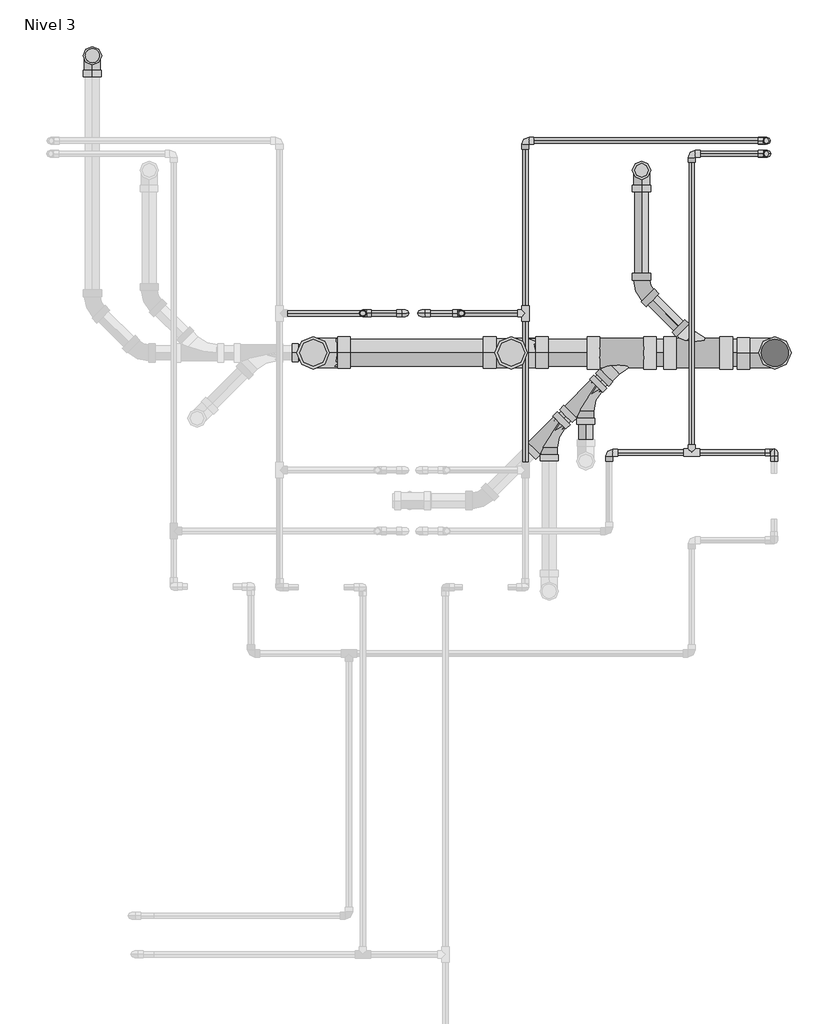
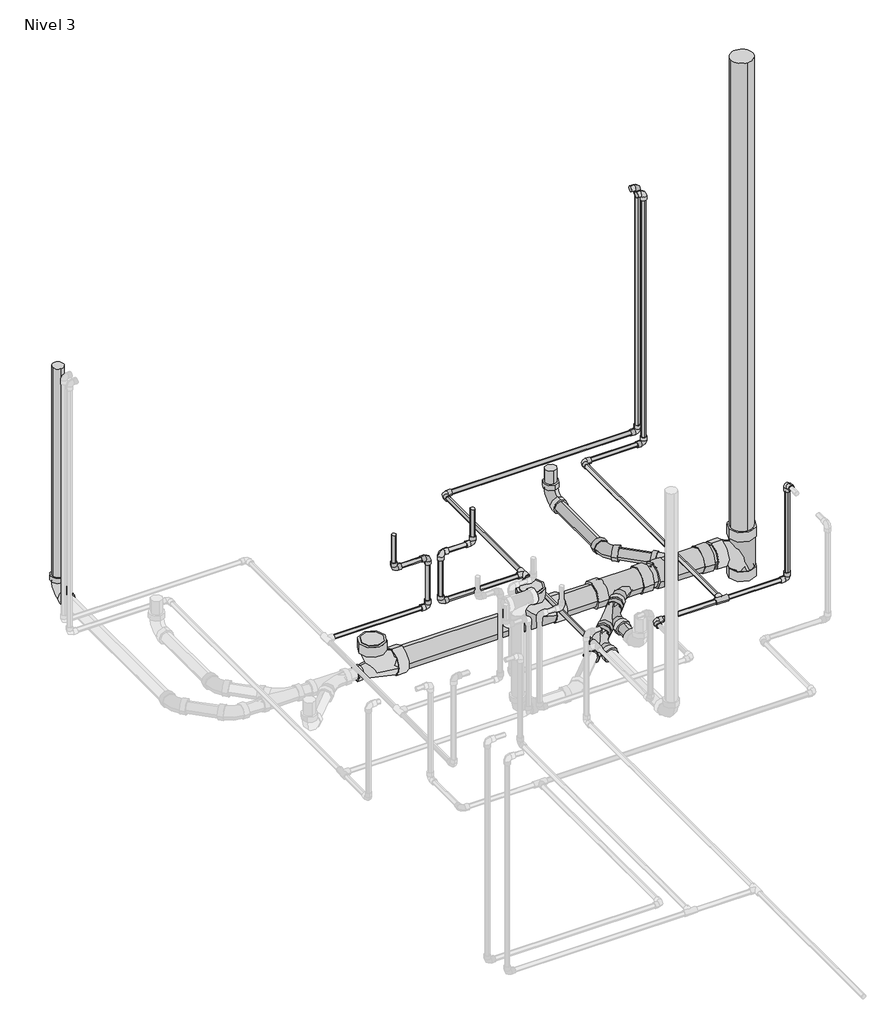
# One storey, part 9 of 9: 32 pipe segments, 27 pipe fittings.
"""IFC4 building model written with IfcOpenShell, lengths in millimetres."""

from ifc_helpers import new_model, si_unit, point, frame, frame_2d, origin, place, context, project, spatial, circle_curve, trimmed, segment, composite_curve, outline, extrude, transform, mapped, element, save
from components import pipe_fitting_ab418b84, pipe_fitting_0163322b, pipe_fitting_2a8dfbef, pipe_fitting_44a425ca, pipe_fitting_ef5974f2, m_codo_pvc_serie_40_9ad74631, m_codo_pvc_serie_40_ba05d404, m_codo_pvc_serie_40_dwv1_5c0ec739, m_codo_pvc_serie_40_dwv1_6f1a2495, m_codo_pvc_serie_40_dwv1_326aaa64

model = new_model("IFC4")

# Units and contexts
model_context = context("Model", 3, world=origin())
ifc_project = project(units=[si_unit("LENGTHUNIT", "METRE", prefix="MILLI")], contexts=[model_context])

# Site, building, storey
site = spatial("IfcSite", under=ifc_project)
building = spatial("IfcBuilding", under=site)
storey = spatial("IfcBuildingStorey", under=building, Name="Nivel 3", Elevation=5450.0)

# Pipe fittings
placement = place(None, origin())
pipe_fitting_shape = pipe_fitting_ab418b84(model_context)
element("IfcPipeFitting", 1, ObjectType="M_Te - PVC - Serie 40 : Estándar", at=placement, inside=storey, context=model_context, shape_type="MappedRepresentation", body=[
    mapped(pipe_fitting_shape, transform((4894.5674476, 16556.8784649, 5400.0), x_axis=(0.0, 1.0, 0.0), y_axis=(1.0, 0.0, 0.0), z_axis=(0.0, 0.0, -1.0))),
])
element("IfcPipeFitting", 2, ObjectType="M_Te - PVC - Serie 40 : Estándar", at=placement, inside=storey, context=model_context, shape_type="MappedRepresentation", body=[
    mapped(pipe_fitting_shape, transform((5540.0276039, 16016.3878958, 5370.0), x_axis=(-1.0, 0.0, 0.0), y_axis=(0.0, -1.0, 0.0), z_axis=(0.0, 0.0, 1.0))),
])
pipe_fitting_2_shape = pipe_fitting_0163322b(model_context)
element("IfcPipeFitting", 3, ObjectType="M_Sanitario con te de reducción - PVC - Serie 40 - DWV : Estándar", at=placement, inside=storey, context=model_context, shape_type="MappedRepresentation", body=[
    mapped(pipe_fitting_2_shape, transform((5128.991198, 16235.29172, 5300.0), x_axis=(-0.7071067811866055, -0.7071067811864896, 0.0), y_axis=(-0.7071067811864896, 0.7071067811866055, 0.0), z_axis=(0.0, 0.0, -1.0))),
])
element("IfcPipeFitting", 4, ObjectType="M_Sanitario con te de reducción - PVC - Serie 40 - DWV : Estándar", at=placement, inside=storey, context=model_context, shape_type="MappedRepresentation", body=[
    mapped(pipe_fitting_2_shape, transform((4986.7349767, 16093.0354988, 5300.0), x_axis=(-0.7071067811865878, -0.7071067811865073, 0.0), y_axis=(-0.7071067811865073, 0.7071067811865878, 0.0), z_axis=(0.0, 0.0, -1.0))),
])
pipe_fitting_3_shape = pipe_fitting_2a8dfbef(model_context)
element("IfcPipeFitting", 5, ObjectType="M_Sanitario con te de reducción - PVC - Serie 40 - DWV : Estándar", at=placement, inside=storey, context=model_context, shape_type="MappedRepresentation", body=[
    mapped(pipe_fitting_3_shape, transform((4839.2491598, 16403.3960274, 5300.0), x_axis=(-1.0, 0.0, 0.0), y_axis=(0.0, 0.0, -1.0), z_axis=(0.0, -1.0, 0.0))),
])
element("IfcPipeFitting", 6, ObjectType="M_Sanitario con te de reducción - PVC - Serie 40 - DWV : Estándar", at=placement, inside=storey, context=model_context, shape_type="MappedRepresentation", body=[
    mapped(pipe_fitting_3_shape, transform((5863.1438745, 16403.3960274, 5300.0), x_axis=(0.0, 0.0, 1.0), y_axis=(1.0, 0.0, 0.0), z_axis=(0.0, 1.0, 0.0))),
])
pipe_fitting_4_shape = pipe_fitting_44a425ca(model_context)
element("IfcPipeFitting", 7, ObjectType="M_Sanitario con te de reducción - PVC - Serie 40 - DWV : Estándar", at=placement, inside=storey, context=model_context, shape_type="MappedRepresentation", body=[
    mapped(pipe_fitting_4_shape, transform((4070.6571051, 16403.3960274, 5300.0), x_axis=(-1.0, 0.0, 0.0), y_axis=(0.0, 0.0, -1.0), z_axis=(0.0, -1.0, 0.0))),
])
pipe_fitting_5_shape = pipe_fitting_ef5974f2(model_context)
element("IfcPipeFitting", 8, ObjectType="M_Sanitario con te de reducción - PVC - Serie 40 - DWV : Estándar", at=placement, inside=storey, context=model_context, shape_type="MappedRepresentation", body=[
    mapped(pipe_fitting_5_shape, transform((5593.2700372, 16403.3960274, 5300.0), x_axis=(-1.0, 0.0, 0.0), y_axis=(0.0, -1.0, 0.0), z_axis=(0.0, 0.0, 1.0))),
])
element("IfcPipeFitting", 9, ObjectType="M_Sanitario con te de reducción - PVC - Serie 40 - DWV : Estándar", at=placement, inside=storey, context=model_context, shape_type="MappedRepresentation", body=[
    mapped(pipe_fitting_5_shape, transform((5297.0955053, 16403.3960274, 5300.0), x_axis=(-1.0, 0.0, 0.0), y_axis=(0.0, 1.0, 0.0), z_axis=(0.0, 0.0, -1.0))),
])
m_codo_pvc_serie_40_shape = m_codo_pvc_serie_40_9ad74631(model_context)
element("IfcPipeFitting", 10, ObjectType="M_Codo - PVC - Serie 40 : Estándar", at=placement, inside=storey, context=model_context, shape_type="MappedRepresentation", body=[
    mapped(m_codo_pvc_serie_40_shape, transform((4263.6339186, 16556.8784649, 5650.0), x_axis=(0.0, 0.0, -1.0), y_axis=(1.0, 0.0, 0.0), z_axis=(0.0, -1.0, 0.0))),
])
element("IfcPipeFitting", 11, ObjectType="M_Codo - PVC - Serie 40 : Estándar", at=placement, inside=storey, context=model_context, shape_type="MappedRepresentation", body=[
    mapped(m_codo_pvc_serie_40_shape, transform((4428.6339186, 16556.8784649, 5650.0), x_axis=(1.0, 0.0, 0.0), y_axis=(0.0, 0.0, -1.0), z_axis=(0.0, 1.0, 0.0))),
])
element("IfcPipeFitting", 12, ObjectType="M_Codo - PVC - Serie 40 : Estándar", at=placement, inside=storey, context=model_context, shape_type="MappedRepresentation", body=[
    mapped(m_codo_pvc_serie_40_shape, transform((4428.6339186, 16556.8784649, 5400.0), x_axis=(0.0, 0.0, -1.0), y_axis=(-1.0, 0.0, 0.0), z_axis=(0.0, 1.0, 0.0))),
])
element("IfcPipeFitting", 13, ObjectType="M_Codo - PVC - Serie 40 : Estándar", at=placement, inside=storey, context=model_context, shape_type="MappedRepresentation", body=[
    mapped(m_codo_pvc_serie_40_shape, transform((4646.2723463, 16556.8784649, 5650.0), x_axis=(0.0, 0.0, -1.0), y_axis=(-1.0, 0.0, 0.0), z_axis=(0.0, 1.0, 0.0))),
])
element("IfcPipeFitting", 14, ObjectType="M_Codo - PVC - Serie 40 : Estándar", at=placement, inside=storey, context=model_context, shape_type="MappedRepresentation", body=[
    mapped(m_codo_pvc_serie_40_shape, transform((4491.2723463, 16556.8784649, 5650.0), x_axis=(-1.0, 0.0, 0.0), y_axis=(0.0, 0.0, -1.0), z_axis=(0.0, -1.0, 0.0))),
])
element("IfcPipeFitting", 15, ObjectType="M_Codo - PVC - Serie 40 : Estándar", at=placement, inside=storey, context=model_context, shape_type="MappedRepresentation", body=[
    mapped(m_codo_pvc_serie_40_shape, transform((4894.5674476, 17227.3386211, 5400.0), x_axis=(-1.0, 0.0, 0.0), y_axis=(0.0, -1.0, 0.0), z_axis=(0.0, 0.0, 1.0))),
])
element("IfcPipeFitting", 16, ObjectType="M_Codo - PVC - Serie 40 : Estándar", at=placement, inside=storey, context=model_context, shape_type="MappedRepresentation", body=[
    mapped(m_codo_pvc_serie_40_shape, transform((4491.2723463, 16556.8784649, 5400.0), x_axis=(0.0, 0.0, -1.0), y_axis=(1.0, 0.0, 0.0), z_axis=(0.0, -1.0, 0.0))),
])
element("IfcPipeFitting", 17, ObjectType="M_Codo - PVC - Serie 40 : Estándar", at=placement, inside=storey, context=model_context, shape_type="MappedRepresentation", body=[
    mapped(m_codo_pvc_serie_40_shape, transform((5860.0276039, 16016.3878958, 5850.0), x_axis=(0.0, 1.0, 0.0), y_axis=(0.0, 0.0, -1.0), z_axis=(-1.0, 0.0, 0.0))),
])
element("IfcPipeFitting", 18, ObjectType="M_Codo - PVC - Serie 40 : Estándar", at=placement, inside=storey, context=model_context, shape_type="MappedRepresentation", body=[
    mapped(m_codo_pvc_serie_40_shape, transform((5860.0276039, 16016.3878958, 5370.0), x_axis=(0.0, 0.0, -1.0), y_axis=(-1.0, 0.0, 0.0), z_axis=(0.0, 1.0, 0.0))),
])
element("IfcPipeFitting", 19, ObjectType="M_Codo - PVC - Serie 40 : Estándar", at=placement, inside=storey, context=model_context, shape_type="MappedRepresentation", body=[
    mapped(m_codo_pvc_serie_40_shape, transform((5540.0276039, 17176.3878958, 5370.0), x_axis=(-1.0, 0.0, 0.0), y_axis=(0.0, -1.0, 0.0), z_axis=(0.0, 0.0, 1.0))),
])
element("IfcPipeFitting", 20, ObjectType="M_Codo - PVC - Serie 40 : Estándar", at=placement, inside=storey, context=model_context, shape_type="MappedRepresentation", body=[
    mapped(m_codo_pvc_serie_40_shape, transform((5832.5276039, 17176.3878958, 5370.0), x_axis=(1.0, 0.0, 0.0), y_axis=(0.0, 0.0, 1.0), z_axis=(0.0, -1.0, 0.0))),
])
element("IfcPipeFitting", 21, ObjectType="M_Codo - PVC - Serie 40 : Estándar", at=placement, inside=storey, context=model_context, shape_type="MappedRepresentation", body=[
    mapped(m_codo_pvc_serie_40_shape, transform((5832.5276039, 17176.3878958, 6650.0), x_axis=(0.0, 0.0, 1.0), y_axis=(-1.0, 0.0, 0.0), z_axis=(0.0, -1.0, 0.0))),
])
element("IfcPipeFitting", 22, ObjectType="M_Codo - PVC - Serie 40 : Estándar", at=placement, inside=storey, context=model_context, shape_type="MappedRepresentation", body=[
    mapped(m_codo_pvc_serie_40_shape, transform((5219.5674476, 16016.3878958, 5370.0), x_axis=(-1.0, 0.0, 0.0), y_axis=(0.0, -1.0, 0.0), z_axis=(0.0, 0.0, 1.0))),
])
m_codo_pvc_serie_40_2_shape = m_codo_pvc_serie_40_ba05d404(model_context)
element("IfcPipeFitting", 23, ObjectType="M_Codo - PVC - Serie 40 : Estándar", at=placement, inside=storey, context=model_context, shape_type="MappedRepresentation", body=[
    mapped(m_codo_pvc_serie_40_2_shape, transform((5831.7288958, 17227.3386211, 5400.0), x_axis=(1.0, 0.0, 0.0), y_axis=(0.0, 0.0, -1.0), z_axis=(0.0, 1.0, 0.0))),
])
element("IfcPipeFitting", 24, ObjectType="M_Codo - PVC - Serie 40 : Estándar", at=placement, inside=storey, context=model_context, shape_type="MappedRepresentation", body=[
    mapped(m_codo_pvc_serie_40_2_shape, transform((5831.7288958, 17227.3386211, 6650.0), x_axis=(0.0, 0.0, 1.0), y_axis=(1.0, 0.0, 0.0), z_axis=(0.0, 1.0, 0.0))),
])
m_codo_pvc_serie_40_dwv1_shape = m_codo_pvc_serie_40_dwv1_5c0ec739(model_context)
element("IfcPipeFitting", 25, ObjectType="M_Codo - PVC - Serie 40 - DWV1 : Estándar 2", at=placement, inside=storey, context=model_context, shape_type="MappedRepresentation", body=[
    mapped(m_codo_pvc_serie_40_dwv1_shape, transform((3213.7125219, 17557.2430701, 5300.0), x_axis=(0.0, 1.0, 0.0), y_axis=(0.0, 0.0, 1.0), z_axis=(1.0, 0.0, 0.0))),
])
m_codo_pvc_serie_40_dwv1_2_shape = m_codo_pvc_serie_40_dwv1_6f1a2495(model_context)
element("IfcPipeFitting", 26, ObjectType="M_Codo - PVC - Serie 40 - DWV1 : Estándar 2", at=placement, inside=storey, context=model_context, shape_type="MappedRepresentation", body=[
    mapped(m_codo_pvc_serie_40_dwv1_2_shape, transform((5345.3911414, 16651.2749231, 5300.0), x_axis=(0.0, -1.0, 0.0), y_axis=(1.0, 0.0, 0.0), z_axis=(0.0, 0.0, 1.0))),
])
m_codo_pvc_serie_40_dwv1_3_shape = m_codo_pvc_serie_40_dwv1_326aaa64(model_context)
element("IfcPipeFitting", 27, ObjectType="M_Codo - PVC - Serie 40 - DWV1 : Estándar 2", at=placement, inside=storey, context=model_context, shape_type="MappedRepresentation", body=[
    mapped(m_codo_pvc_serie_40_dwv1_3_shape, transform((5345.3911414, 17111.7600116, 5300.0), x_axis=(0.0, 1.0, 0.0), y_axis=(0.0, 0.0, -1.0), z_axis=(-1.0, 0.0, 0.0))),
])

# Pipe segments
element("IfcPipeSegment", 28, ObjectType="Tuberia PVC Agua Fria", at=placement, inside=storey, context=model_context, shape_type="SweptSolid", body=[
    extrude(outline(composite_curve([segment(trimmed(circle_curve(frame_2d((16556.8784649, 5650.0)), 10.31875), [point((16546.5597149, 5650.0))], [point((16556.8784649, 5660.31875))], False, "CARTESIAN"), True, "CONTINUOUS"), segment(trimmed(circle_curve(frame_2d((16556.8784649, 5650.0)), 10.31875), [point((16556.8784649, 5660.31875))], [point((16567.1972149, 5650.0))], False, "CARTESIAN"), True, "CONTINUOUS"), segment(trimmed(circle_curve(frame_2d((16556.8784649, 5650.0)), 10.31875), [point((16567.1972149, 5650.0))], [point((16556.8784649, 5639.68125))], False, "CARTESIAN"), True, "CONTINUOUS"), segment(trimmed(circle_curve(frame_2d((16556.8784649, 5650.0)), 10.31875), [point((16556.8784649, 5639.68125))], [point((16546.5597149, 5650.0))], False, "CARTESIAN"), True, "CONTINUOUS")], self_intersect=False)), frame((4297.0349186, 0.0, 0.0), z_axis=(1.0, 0.0, 0.0), x_axis=(0.0, 1.0, 0.0)), (0.0, 0.0, 1.0), 98.198),
])
element("IfcPipeSegment", 29, ObjectType="Tuberia PVC Agua Fria", at=placement, inside=storey, context=model_context, shape_type="SweptSolid", body=[
    extrude(outline(composite_curve([segment(trimmed(circle_curve(frame_2d((4263.6339186, 16556.8784649)), 10.31875), [point((4273.9526686, 16556.8784649))], [point((4263.6339186, 16546.5597149))], False, "CARTESIAN"), True, "CONTINUOUS"), segment(trimmed(circle_curve(frame_2d((4263.6339186, 16556.8784649)), 10.31875), [point((4263.6339186, 16546.5597149))], [point((4253.3151686, 16556.8784649))], False, "CARTESIAN"), True, "CONTINUOUS"), segment(trimmed(circle_curve(frame_2d((4263.6339186, 16556.8784649)), 10.31875), [point((4253.3151686, 16556.8784649))], [point((4263.6339186, 16567.1972149))], False, "CARTESIAN"), True, "CONTINUOUS"), segment(trimmed(circle_curve(frame_2d((4263.6339186, 16556.8784649)), 10.31875), [point((4263.6339186, 16567.1972149))], [point((4273.9526686, 16556.8784649))], False, "CARTESIAN"), True, "CONTINUOUS")], self_intersect=False)), frame((0.0, 0.0, 5683.401), z_axis=(0.0, 0.0, 1.0), x_axis=(1.0, 0.0, 0.0)), (0.0, 0.0, 1.0), 139.7562509),
])
element("IfcPipeSegment", 30, ObjectType="Tuberia PVC Agua Fria", at=placement, inside=storey, context=model_context, shape_type="SweptSolid", body=[
    extrude(outline(composite_curve([segment(trimmed(circle_curve(frame_2d((16556.8784649, 5400.0)), 10.31875), [point((16567.1972149, 5400.0))], [point((16556.8784649, 5389.68125))], False, "CARTESIAN"), True, "CONTINUOUS"), segment(trimmed(circle_curve(frame_2d((16556.8784649, 5400.0)), 10.31875), [point((16556.8784649, 5389.68125))], [point((16546.5597149, 5400.0))], False, "CARTESIAN"), True, "CONTINUOUS"), segment(trimmed(circle_curve(frame_2d((16556.8784649, 5400.0)), 10.31875), [point((16546.5597149, 5400.0))], [point((16556.8784649, 5410.31875))], False, "CARTESIAN"), True, "CONTINUOUS"), segment(trimmed(circle_curve(frame_2d((16556.8784649, 5400.0)), 10.31875), [point((16556.8784649, 5410.31875))], [point((16567.1972149, 5400.0))], False, "CARTESIAN"), True, "CONTINUOUS")], self_intersect=False)), frame((3970.5125253, 0.0, 0.0), z_axis=(1.0, 0.0, 0.0), x_axis=(0.0, 1.0, 0.0)), (0.0, 0.0, 1.0), 424.7203933),
])
element("IfcPipeSegment", 31, ObjectType="Tuberia PVC Agua Fria", at=placement, inside=storey, context=model_context, shape_type="SweptSolid", body=[
    extrude(outline(composite_curve([segment(trimmed(circle_curve(frame_2d((4428.6339186, 16556.8784649)), 10.31875), [point((4438.9526686, 16556.8784649))], [point((4428.6339186, 16546.5597149))], False, "CARTESIAN"), True, "CONTINUOUS"), segment(trimmed(circle_curve(frame_2d((4428.6339186, 16556.8784649)), 10.31875), [point((4428.6339186, 16546.5597149))], [point((4418.3151686, 16556.8784649))], False, "CARTESIAN"), True, "CONTINUOUS"), segment(trimmed(circle_curve(frame_2d((4428.6339186, 16556.8784649)), 10.31875), [point((4418.3151686, 16556.8784649))], [point((4428.6339186, 16567.1972149))], False, "CARTESIAN"), True, "CONTINUOUS"), segment(trimmed(circle_curve(frame_2d((4428.6339186, 16556.8784649)), 10.31875), [point((4428.6339186, 16567.1972149))], [point((4438.9526686, 16556.8784649))], False, "CARTESIAN"), True, "CONTINUOUS")], self_intersect=False)), frame((0.0, 0.0, 5433.401), z_axis=(0.0, 0.0, 1.0), x_axis=(1.0, 0.0, 0.0)), (0.0, 0.0, 1.0), 183.198),
])
element("IfcPipeSegment", 32, ObjectType="Tuberia PVC Agua Fria", at=placement, inside=storey, context=model_context, shape_type="SweptSolid", body=[
    extrude(outline(composite_curve([segment(trimmed(circle_curve(frame_2d((16556.8784649, 5650.0)), 10.31875), [point((16567.1972149, 5650.0))], [point((16556.8784649, 5639.68125))], False, "CARTESIAN"), True, "CONTINUOUS"), segment(trimmed(circle_curve(frame_2d((16556.8784649, 5650.0)), 10.31875), [point((16556.8784649, 5639.68125))], [point((16546.5597149, 5650.0))], False, "CARTESIAN"), True, "CONTINUOUS"), segment(trimmed(circle_curve(frame_2d((16556.8784649, 5650.0)), 10.31875), [point((16546.5597149, 5650.0))], [point((16556.8784649, 5660.31875))], False, "CARTESIAN"), True, "CONTINUOUS"), segment(trimmed(circle_curve(frame_2d((16556.8784649, 5650.0)), 10.31875), [point((16556.8784649, 5660.31875))], [point((16567.1972149, 5650.0))], False, "CARTESIAN"), True, "CONTINUOUS")], self_intersect=False)), frame((4524.6733463, 0.0, 0.0), z_axis=(1.0, 0.0, 0.0), x_axis=(0.0, 1.0, 0.0)), (0.0, 0.0, 1.0), 88.198),
])
element("IfcPipeSegment", 33, ObjectType="Tuberia PVC Agua Fria", at=placement, inside=storey, context=model_context, shape_type="SweptSolid", body=[
    extrude(outline(composite_curve([segment(trimmed(circle_curve(frame_2d((4646.2723463, 16556.8784649)), 10.31875), [point((4656.5910963, 16556.8784649))], [point((4646.2723463, 16546.5597149))], False, "CARTESIAN"), True, "CONTINUOUS"), segment(trimmed(circle_curve(frame_2d((4646.2723463, 16556.8784649)), 10.31875), [point((4646.2723463, 16546.5597149))], [point((4635.9535963, 16556.8784649))], False, "CARTESIAN"), True, "CONTINUOUS"), segment(trimmed(circle_curve(frame_2d((4646.2723463, 16556.8784649)), 10.31875), [point((4635.9535963, 16556.8784649))], [point((4646.2723463, 16567.1972149))], False, "CARTESIAN"), True, "CONTINUOUS"), segment(trimmed(circle_curve(frame_2d((4646.2723463, 16556.8784649)), 10.31875), [point((4646.2723463, 16567.1972149))], [point((4656.5910963, 16556.8784649))], False, "CARTESIAN"), True, "CONTINUOUS")], self_intersect=False)), frame((0.0, 0.0, 5683.401), z_axis=(0.0, 0.0, 1.0), x_axis=(1.0, 0.0, 0.0)), (0.0, 0.0, 1.0), 139.7562509),
])
element("IfcPipeSegment", 34, ObjectType="Tuberia PVC Agua Fria", at=placement, inside=storey, context=model_context, shape_type="SweptSolid", body=[
    extrude(outline(composite_curve([segment(trimmed(circle_curve(frame_2d((4491.2723463, 16556.8784649)), 10.31875), [point((4501.5910963, 16556.8784649))], [point((4491.2723463, 16546.5597149))], False, "CARTESIAN"), True, "CONTINUOUS"), segment(trimmed(circle_curve(frame_2d((4491.2723463, 16556.8784649)), 10.31875), [point((4491.2723463, 16546.5597149))], [point((4480.9535963, 16556.8784649))], False, "CARTESIAN"), True, "CONTINUOUS"), segment(trimmed(circle_curve(frame_2d((4491.2723463, 16556.8784649)), 10.31875), [point((4480.9535963, 16556.8784649))], [point((4491.2723463, 16567.1972149))], False, "CARTESIAN"), True, "CONTINUOUS"), segment(trimmed(circle_curve(frame_2d((4491.2723463, 16556.8784649)), 10.31875), [point((4491.2723463, 16567.1972149))], [point((4501.5910963, 16556.8784649))], False, "CARTESIAN"), True, "CONTINUOUS")], self_intersect=False)), frame((0.0, 0.0, 5433.401), z_axis=(0.0, 0.0, 1.0), x_axis=(1.0, 0.0, 0.0)), (0.0, 0.0, 1.0), 183.198),
])
element("IfcPipeSegment", 35, ObjectType="Tuberia PVC Agua Fria", at=placement, inside=storey, context=model_context, shape_type="SweptSolid", body=[
    extrude(outline(composite_curve([segment(trimmed(circle_curve(frame_2d((17227.3386211, 5400.0)), 10.31875), [point((17217.0198711, 5400.0))], [point((17227.3386211, 5410.31875))], False, "CARTESIAN"), True, "CONTINUOUS"), segment(trimmed(circle_curve(frame_2d((17227.3386211, 5400.0)), 10.31875), [point((17227.3386211, 5410.31875))], [point((17237.6573711, 5400.0))], False, "CARTESIAN"), True, "CONTINUOUS"), segment(trimmed(circle_curve(frame_2d((17227.3386211, 5400.0)), 10.31875), [point((17237.6573711, 5400.0))], [point((17227.3386211, 5389.68125))], False, "CARTESIAN"), True, "CONTINUOUS"), segment(trimmed(circle_curve(frame_2d((17227.3386211, 5400.0)), 10.31875), [point((17227.3386211, 5389.68125))], [point((17217.0198711, 5400.0))], False, "CARTESIAN"), True, "CONTINUOUS")], self_intersect=False)), frame((4927.9684476, 0.0, 0.0), z_axis=(1.0, 0.0, 0.0), x_axis=(0.0, 1.0, 0.0)), (0.0, 0.0, 1.0), 870.3594481),
])
element("IfcPipeSegment", 36, ObjectType="Tuberia PVC Agua Fria", at=placement, inside=storey, context=model_context, shape_type="SweptSolid", body=[
    extrude(outline(composite_curve([segment(trimmed(circle_curve(frame_2d((5831.7288958, 17227.3386211)), 10.31875), [point((5821.4101458, 17227.3386211))], [point((5831.7288958, 17237.6573711))], False, "CARTESIAN"), True, "CONTINUOUS"), segment(trimmed(circle_curve(frame_2d((5831.7288958, 17227.3386211)), 10.31875), [point((5831.7288958, 17237.6573711))], [point((5842.0476458, 17227.3386211))], False, "CARTESIAN"), True, "CONTINUOUS"), segment(trimmed(circle_curve(frame_2d((5831.7288958, 17227.3386211)), 10.31875), [point((5842.0476458, 17227.3386211))], [point((5831.7288958, 17217.0198711))], False, "CARTESIAN"), True, "CONTINUOUS"), segment(trimmed(circle_curve(frame_2d((5831.7288958, 17227.3386211)), 10.31875), [point((5831.7288958, 17217.0198711))], [point((5821.4101458, 17227.3386211))], False, "CARTESIAN"), True, "CONTINUOUS")], self_intersect=False)), frame((0.0, 0.0, 5433.401), z_axis=(0.0, 0.0, 1.0), x_axis=(1.0, 0.0, 0.0)), (0.0, 0.0, 1.0), 1183.198),
])
element("IfcPipeSegment", 37, ObjectType="Tuberia PVC Agua Fria", at=placement, inside=storey, context=model_context, shape_type="SweptSolid", body=[
    extrude(outline(composite_curve([segment(trimmed(circle_curve(frame_2d((16556.8784649, 5400.0)), 10.31875), [point((16546.5597149, 5400.0))], [point((16556.8784649, 5410.31875))], False, "CARTESIAN"), True, "CONTINUOUS"), segment(trimmed(circle_curve(frame_2d((16556.8784649, 5400.0)), 10.31875), [point((16556.8784649, 5410.31875))], [point((16567.1972149, 5400.0))], False, "CARTESIAN"), True, "CONTINUOUS"), segment(trimmed(circle_curve(frame_2d((16556.8784649, 5400.0)), 10.31875), [point((16567.1972149, 5400.0))], [point((16556.8784649, 5389.68125))], False, "CARTESIAN"), True, "CONTINUOUS"), segment(trimmed(circle_curve(frame_2d((16556.8784649, 5400.0)), 10.31875), [point((16556.8784649, 5389.68125))], [point((16546.5597149, 5400.0))], False, "CARTESIAN"), True, "CONTINUOUS")], self_intersect=False)), frame((4524.6733463, 0.0, 0.0), z_axis=(1.0, 0.0, 0.0), x_axis=(0.0, 1.0, 0.0)), (0.0, 0.0, 1.0), 339.4339451),
])
element("IfcPipeSegment", 38, ObjectType="Tuberia PVC Agua Fria", at=placement, inside=storey, context=model_context, shape_type="SweptSolid", body=[
    extrude(outline(composite_curve([segment(trimmed(circle_curve(frame_2d((5400.0, 4894.5674476)), 10.31875), [point((5400.0, 4884.2486976))], [point((5389.68125, 4894.5674476))], False, "CARTESIAN"), True, "CONTINUOUS"), segment(trimmed(circle_curve(frame_2d((5400.0, 4894.5674476)), 10.31875), [point((5389.68125, 4894.5674476))], [point((5400.0, 4904.8861976))], False, "CARTESIAN"), True, "CONTINUOUS"), segment(trimmed(circle_curve(frame_2d((5400.0, 4894.5674476)), 10.31875), [point((5400.0, 4904.8861976))], [point((5410.31875, 4894.5674476))], False, "CARTESIAN"), True, "CONTINUOUS"), segment(trimmed(circle_curve(frame_2d((5400.0, 4894.5674476)), 10.31875), [point((5410.31875, 4894.5674476))], [point((5400.0, 4884.2486976))], False, "CARTESIAN"), True, "CONTINUOUS")], self_intersect=False)), frame((0.0, 15978.8385729, 0.0), z_axis=(0.0, 1.0, 0.0), x_axis=(0.0, 0.0, 1.0)), (0.0, 0.0, 1.0), 547.5797357),
])
element("IfcPipeSegment", 39, ObjectType="Tuberia PVC Agua Fria", at=placement, inside=storey, context=model_context, shape_type="SweptSolid", body=[
    extrude(outline(composite_curve([segment(trimmed(circle_curve(frame_2d((5400.0, 4894.5674476)), 10.31875), [point((5400.0, 4884.2486976))], [point((5389.68125, 4894.5674476))], False, "CARTESIAN"), True, "CONTINUOUS"), segment(trimmed(circle_curve(frame_2d((5400.0, 4894.5674476)), 10.31875), [point((5389.68125, 4894.5674476))], [point((5400.0, 4904.8861976))], False, "CARTESIAN"), True, "CONTINUOUS"), segment(trimmed(circle_curve(frame_2d((5400.0, 4894.5674476)), 10.31875), [point((5400.0, 4904.8861976))], [point((5410.31875, 4894.5674476))], False, "CARTESIAN"), True, "CONTINUOUS"), segment(trimmed(circle_curve(frame_2d((5400.0, 4894.5674476)), 10.31875), [point((5410.31875, 4894.5674476))], [point((5400.0, 4884.2486976))], False, "CARTESIAN"), True, "CONTINUOUS")], self_intersect=False)), frame((0.0, 16587.3386211, 0.0), z_axis=(0.0, 1.0, 0.0), x_axis=(0.0, 0.0, 1.0)), (0.0, 0.0, 1.0), 606.599),
])
element("IfcPipeSegment", 40, ObjectType="Tuberia PVC VENTILACION", at=placement, inside=storey, context=model_context, shape_type="SweptSolid", body=[
    extrude(outline(composite_curve([segment(trimmed(circle_curve(frame_2d((3213.7125219, 17557.2430701)), 26.9875), [point((3186.7250219, 17557.2430701))], [point((3213.7125219, 17584.2305701))], False, "CARTESIAN"), True, "CONTINUOUS"), segment(trimmed(circle_curve(frame_2d((3213.7125219, 17557.2430701)), 26.9875), [point((3213.7125219, 17584.2305701))], [point((3240.7000219, 17557.2430701))], False, "CARTESIAN"), True, "CONTINUOUS"), segment(trimmed(circle_curve(frame_2d((3213.7125219, 17557.2430701)), 26.9875), [point((3240.7000219, 17557.2430701))], [point((3213.7125219, 17530.2555701))], False, "CARTESIAN"), True, "CONTINUOUS"), segment(trimmed(circle_curve(frame_2d((3213.7125219, 17557.2430701)), 26.9875), [point((3213.7125219, 17530.2555701))], [point((3186.7250219, 17557.2430701))], False, "CARTESIAN"), True, "CONTINUOUS")], self_intersect=False)), frame((0.0, 0.0, 5382.5420625), z_axis=(0.0, 0.0, 1.0), x_axis=(1.0, 0.0, 0.0)), (0.0, 0.0, 1.0), 1067.4579375),
])
element("IfcPipeSegment", 41, ObjectType="Tuberia PVC Agua Caliente", at=placement, inside=storey, context=model_context, shape_type="SweptSolid", body=[
    extrude(outline(composite_curve([segment(trimmed(circle_curve(frame_2d((16016.3878958, 5370.0)), 10.31875), [point((16026.7066458, 5370.0))], [point((16016.3878958, 5359.68125))], False, "CARTESIAN"), True, "CONTINUOUS"), segment(trimmed(circle_curve(frame_2d((16016.3878958, 5370.0)), 10.31875), [point((16016.3878958, 5359.68125))], [point((16006.0691458, 5370.0))], False, "CARTESIAN"), True, "CONTINUOUS"), segment(trimmed(circle_curve(frame_2d((16016.3878958, 5370.0)), 10.31875), [point((16006.0691458, 5370.0))], [point((16016.3878958, 5380.31875))], False, "CARTESIAN"), True, "CONTINUOUS"), segment(trimmed(circle_curve(frame_2d((16016.3878958, 5370.0)), 10.31875), [point((16016.3878958, 5380.31875))], [point((16026.7066458, 5370.0))], False, "CARTESIAN"), True, "CONTINUOUS")], self_intersect=False)), frame((5570.4877601, 0.0, 0.0), z_axis=(1.0, 0.0, 0.0), x_axis=(0.0, 1.0, 0.0)), (0.0, 0.0, 1.0), 256.1388438),
])
element("IfcPipeSegment", 42, ObjectType="Tuberia PVC Agua Caliente", at=placement, inside=storey, context=model_context, shape_type="SweptSolid", body=[
    extrude(outline(composite_curve([segment(trimmed(circle_curve(frame_2d((5860.0276039, 16016.3878958)), 10.31875), [point((5870.3463539, 16016.3878958))], [point((5860.0276039, 16006.0691458))], False, "CARTESIAN"), True, "CONTINUOUS"), segment(trimmed(circle_curve(frame_2d((5860.0276039, 16016.3878958)), 10.31875), [point((5860.0276039, 16006.0691458))], [point((5849.7088539, 16016.3878958))], False, "CARTESIAN"), True, "CONTINUOUS"), segment(trimmed(circle_curve(frame_2d((5860.0276039, 16016.3878958)), 10.31875), [point((5849.7088539, 16016.3878958))], [point((5860.0276039, 16026.7066458))], False, "CARTESIAN"), True, "CONTINUOUS"), segment(trimmed(circle_curve(frame_2d((5860.0276039, 16016.3878958)), 10.31875), [point((5860.0276039, 16026.7066458))], [point((5870.3463539, 16016.3878958))], False, "CARTESIAN"), True, "CONTINUOUS")], self_intersect=False)), frame((0.0, 0.0, 5403.401), z_axis=(0.0, 0.0, 1.0), x_axis=(1.0, 0.0, 0.0)), (0.0, 0.0, 1.0), 413.198),
])
element("IfcPipeSegment", 43, ObjectType="Tuberia PVC Agua Caliente", at=placement, inside=storey, context=model_context, shape_type="SweptSolid", body=[
    extrude(outline(composite_curve([segment(trimmed(circle_curve(frame_2d((5370.0, 5540.0276039)), 10.31875), [point((5370.0, 5550.3463539))], [point((5380.31875, 5540.0276039))], False, "CARTESIAN"), True, "CONTINUOUS"), segment(trimmed(circle_curve(frame_2d((5370.0, 5540.0276039)), 10.31875), [point((5380.31875, 5540.0276039))], [point((5370.0, 5529.7088539))], False, "CARTESIAN"), True, "CONTINUOUS"), segment(trimmed(circle_curve(frame_2d((5370.0, 5540.0276039)), 10.31875), [point((5370.0, 5529.7088539))], [point((5359.68125, 5540.0276039))], False, "CARTESIAN"), True, "CONTINUOUS"), segment(trimmed(circle_curve(frame_2d((5370.0, 5540.0276039)), 10.31875), [point((5359.68125, 5540.0276039))], [point((5370.0, 5550.3463539))], False, "CARTESIAN"), True, "CONTINUOUS")], self_intersect=False)), frame((0.0, 16046.848052, 0.0), z_axis=(0.0, 1.0, 0.0), x_axis=(0.0, 0.0, 1.0)), (0.0, 0.0, 1.0), 1096.1388438),
])
element("IfcPipeSegment", 44, ObjectType="Tuberia PVC Agua Caliente", at=placement, inside=storey, context=model_context, shape_type="SweptSolid", body=[
    extrude(outline(composite_curve([segment(trimmed(circle_curve(frame_2d((17176.3878958, 5370.0)), 10.31875), [point((17166.0691458, 5370.0))], [point((17176.3878958, 5380.31875))], False, "CARTESIAN"), True, "CONTINUOUS"), segment(trimmed(circle_curve(frame_2d((17176.3878958, 5370.0)), 10.31875), [point((17176.3878958, 5380.31875))], [point((17186.7066458, 5370.0))], False, "CARTESIAN"), True, "CONTINUOUS"), segment(trimmed(circle_curve(frame_2d((17176.3878958, 5370.0)), 10.31875), [point((17186.7066458, 5370.0))], [point((17176.3878958, 5359.68125))], False, "CARTESIAN"), True, "CONTINUOUS"), segment(trimmed(circle_curve(frame_2d((17176.3878958, 5370.0)), 10.31875), [point((17176.3878958, 5359.68125))], [point((17166.0691458, 5370.0))], False, "CARTESIAN"), True, "CONTINUOUS")], self_intersect=False)), frame((5573.4286039, 0.0, 0.0), z_axis=(1.0, 0.0, 0.0), x_axis=(0.0, 1.0, 0.0)), (0.0, 0.0, 1.0), 225.698),
])
element("IfcPipeSegment", 45, ObjectType="Tuberia PVC Agua Caliente", at=placement, inside=storey, context=model_context, shape_type="SweptSolid", body=[
    extrude(outline(composite_curve([segment(trimmed(circle_curve(frame_2d((5832.5276039, 17176.3878958)), 10.31875), [point((5822.2088539, 17176.3878958))], [point((5832.5276039, 17186.7066458))], False, "CARTESIAN"), True, "CONTINUOUS"), segment(trimmed(circle_curve(frame_2d((5832.5276039, 17176.3878958)), 10.31875), [point((5832.5276039, 17186.7066458))], [point((5842.8463539, 17176.3878958))], False, "CARTESIAN"), True, "CONTINUOUS"), segment(trimmed(circle_curve(frame_2d((5832.5276039, 17176.3878958)), 10.31875), [point((5842.8463539, 17176.3878958))], [point((5832.5276039, 17166.0691458))], False, "CARTESIAN"), True, "CONTINUOUS"), segment(trimmed(circle_curve(frame_2d((5832.5276039, 17176.3878958)), 10.31875), [point((5832.5276039, 17166.0691458))], [point((5822.2088539, 17176.3878958))], False, "CARTESIAN"), True, "CONTINUOUS")], self_intersect=False)), frame((0.0, 0.0, 5403.401), z_axis=(0.0, 0.0, 1.0), x_axis=(1.0, 0.0, 0.0)), (0.0, 0.0, 1.0), 1213.198),
])
element("IfcPipeSegment", 46, ObjectType="Tuberia PVC Agua Caliente", at=placement, inside=storey, context=model_context, shape_type="SweptSolid", body=[
    extrude(outline(composite_curve([segment(trimmed(circle_curve(frame_2d((16016.3878958, 5370.0)), 10.31875), [point((16026.7066458, 5370.0))], [point((16016.3878958, 5359.68125))], False, "CARTESIAN"), True, "CONTINUOUS"), segment(trimmed(circle_curve(frame_2d((16016.3878958, 5370.0)), 10.31875), [point((16016.3878958, 5359.68125))], [point((16006.0691458, 5370.0))], False, "CARTESIAN"), True, "CONTINUOUS"), segment(trimmed(circle_curve(frame_2d((16016.3878958, 5370.0)), 10.31875), [point((16006.0691458, 5370.0))], [point((16016.3878958, 5380.31875))], False, "CARTESIAN"), True, "CONTINUOUS"), segment(trimmed(circle_curve(frame_2d((16016.3878958, 5370.0)), 10.31875), [point((16016.3878958, 5380.31875))], [point((16026.7066458, 5370.0))], False, "CARTESIAN"), True, "CONTINUOUS")], self_intersect=False)), frame((5252.9684476, 0.0, 0.0), z_axis=(1.0, 0.0, 0.0), x_axis=(0.0, 1.0, 0.0)), (0.0, 0.0, 1.0), 256.599),
])
element("IfcPipeSegment", 47, ObjectType="Tuberia PVC Sanitario", at=placement, inside=storey, context=model_context, shape_type="SweptSolid", body=[
    extrude(outline(composite_curve([segment(trimmed(circle_curve(frame_2d((4839.2491598, 16403.3960274)), 52.3875), [point((4891.6366598, 16403.3960274))], [point((4839.2491598, 16351.0085274))], False, "CARTESIAN"), True, "CONTINUOUS"), segment(trimmed(circle_curve(frame_2d((4839.2491598, 16403.3960274)), 52.3875), [point((4839.2491598, 16351.0085274))], [point((4786.8616598, 16403.3960274))], False, "CARTESIAN"), True, "CONTINUOUS"), segment(trimmed(circle_curve(frame_2d((4839.2491598, 16403.3960274)), 52.3875), [point((4786.8616598, 16403.3960274))], [point((4839.2491598, 16455.7835274))], False, "CARTESIAN"), True, "CONTINUOUS"), segment(trimmed(circle_curve(frame_2d((4839.2491598, 16403.3960274)), 52.3875), [point((4839.2491598, 16455.7835274))], [point((4891.6366598, 16403.3960274))], False, "CARTESIAN"), True, "CONTINUOUS")], self_intersect=False)), frame((0.0, 0.0, 5446.8159688), z_axis=(0.0, 0.0, 1.0), x_axis=(1.0, 0.0, 0.0)), (0.0, 0.0, 1.0), 3.1840312),
])
element("IfcPipeSegment", 48, ObjectType="Tuberia PVC Sanitario", at=placement, inside=storey, context=model_context, shape_type="SweptSolid", body=[
    extrude(outline(composite_curve([segment(trimmed(circle_curve(frame_2d((4070.6571051, 16403.3960274)), 52.3875), [point((4123.0446051, 16403.3960274))], [point((4070.6571051, 16351.0085274))], False, "CARTESIAN"), True, "CONTINUOUS"), segment(trimmed(circle_curve(frame_2d((4070.6571051, 16403.3960274)), 52.3875), [point((4070.6571051, 16351.0085274))], [point((4018.2696051, 16403.3960274))], False, "CARTESIAN"), True, "CONTINUOUS"), segment(trimmed(circle_curve(frame_2d((4070.6571051, 16403.3960274)), 52.3875), [point((4018.2696051, 16403.3960274))], [point((4070.6571051, 16455.7835274))], False, "CARTESIAN"), True, "CONTINUOUS"), segment(trimmed(circle_curve(frame_2d((4070.6571051, 16403.3960274)), 52.3875), [point((4070.6571051, 16455.7835274))], [point((4123.0446051, 16403.3960274))], False, "CARTESIAN"), True, "CONTINUOUS")], self_intersect=False)), frame((0.0, 0.0, 5446.8159687), z_axis=(0.0, 0.0, 1.0), x_axis=(1.0, 0.0, 0.0)), (0.0, 0.0, 1.0), 3.1840313),
])
element("IfcPipeSegment", 49, ObjectType="Tuberia PVC Sanitario", at=placement, inside=storey, context=model_context, shape_type="SweptSolid", body=[
    extrude(outline(composite_curve([segment(trimmed(circle_curve(frame_2d((16403.3960274, 5300.0)), 52.3875), [point((16351.0085274, 5300.0))], [point((16403.3960274, 5352.3875))], False, "CARTESIAN"), True, "CONTINUOUS"), segment(trimmed(circle_curve(frame_2d((16403.3960274, 5300.0)), 52.3875), [point((16403.3960274, 5352.3875))], [point((16455.7835274, 5300.0))], False, "CARTESIAN"), True, "CONTINUOUS"), segment(trimmed(circle_curve(frame_2d((16403.3960274, 5300.0)), 52.3875), [point((16455.7835274, 5300.0))], [point((16403.3960274, 5247.6125))], False, "CARTESIAN"), True, "CONTINUOUS"), segment(trimmed(circle_curve(frame_2d((16403.3960274, 5300.0)), 52.3875), [point((16403.3960274, 5247.6125))], [point((16351.0085274, 5300.0))], False, "CARTESIAN"), True, "CONTINUOUS")], self_intersect=False)), frame((4214.5518198, 0.0, 0.0), z_axis=(1.0, 0.0, 0.0), x_axis=(0.0, 1.0, 0.0)), (0.0, 0.0, 1.0), 516.8597985),
])
element("IfcPipeSegment", 50, ObjectType="Tuberia PVC Sanitario", at=placement, inside=storey, context=model_context, shape_type="SweptSolid", body=[
    extrude(outline(composite_curve([segment(trimmed(circle_curve(frame_2d((5300.0, 5345.3911414)), 26.9875), [point((5300.0, 5318.4036414))], [point((5273.0125, 5345.3911414))], False, "CARTESIAN"), True, "CONTINUOUS"), segment(trimmed(circle_curve(frame_2d((5300.0, 5345.3911414)), 26.9875), [point((5273.0125, 5345.3911414))], [point((5300.0, 5372.3786414))], False, "CARTESIAN"), True, "CONTINUOUS"), segment(trimmed(circle_curve(frame_2d((5300.0, 5345.3911414)), 26.9875), [point((5300.0, 5372.3786414))], [point((5326.9875, 5345.3911414))], False, "CARTESIAN"), True, "CONTINUOUS"), segment(trimmed(circle_curve(frame_2d((5300.0, 5345.3911414)), 26.9875), [point((5326.9875, 5345.3911414))], [point((5300.0, 5318.4036414))], False, "CARTESIAN"), True, "CONTINUOUS")], self_intersect=False)), frame((0.0, 16711.7031106, 0.0), z_axis=(0.0, 1.0, 0.0), x_axis=(0.0, 0.0, 1.0)), (0.0, 0.0, 1.0), 317.5148384),
])
element("IfcPipeSegment", 51, ObjectType="Tuberia PVC Sanitario", at=placement, inside=storey, context=model_context, shape_type="SweptSolid", body=[
    extrude(outline(composite_curve([segment(trimmed(circle_curve(frame_2d((5345.3911414, 17111.7600116)), 26.9875), [point((5318.4036414, 17111.7600116))], [point((5345.3911414, 17138.7475116))], False, "CARTESIAN"), True, "CONTINUOUS"), segment(trimmed(circle_curve(frame_2d((5345.3911414, 17111.7600116)), 26.9875), [point((5345.3911414, 17138.7475116))], [point((5372.3786414, 17111.7600116))], False, "CARTESIAN"), True, "CONTINUOUS"), segment(trimmed(circle_curve(frame_2d((5345.3911414, 17111.7600116)), 26.9875), [point((5372.3786414, 17111.7600116))], [point((5345.3911414, 17084.7725116))], False, "CARTESIAN"), True, "CONTINUOUS"), segment(trimmed(circle_curve(frame_2d((5345.3911414, 17111.7600116)), 26.9875), [point((5345.3911414, 17084.7725116))], [point((5318.4036414, 17111.7600116))], False, "CARTESIAN"), True, "CONTINUOUS")], self_intersect=False)), frame((0.0, 0.0, 5382.5420625), z_axis=(0.0, 0.0, 1.0), x_axis=(1.0, 0.0, 0.0)), (0.0, 0.0, 1.0), 67.4579375),
])
element("IfcPipeSegment", 52, ObjectType="Tuberia PVC Sanitario", at=placement, inside=storey, context=model_context, shape_type="SweptSolid", body=[
    extrude(outline(composite_curve([segment(trimmed(circle_curve(frame_2d((0.0, -26.9875)), 26.9875), [point((-26.9875, -26.9875))], [point((0.0, 0.0))], False, "CARTESIAN"), True, "CONTINUOUS"), segment(trimmed(circle_curve(frame_2d((0.0, -26.9875)), 26.9875), [point((0.0, 0.0))], [point((26.9875001, -26.9875))], False, "CARTESIAN"), True, "CONTINUOUS"), segment(trimmed(circle_curve(frame_2d((0.0, -26.9875)), 26.9875), [point((26.9875001, -26.9875))], [point((0.0, -53.975))], False, "CARTESIAN"), True, "CONTINUOUS"), segment(trimmed(circle_curve(frame_2d((0.0, -26.9875)), 26.9875), [point((0.0, -53.975))], [point((-26.9875, -26.9875))], False, "CARTESIAN"), True, "CONTINUOUS")], self_intersect=False)), frame((5488.8782274, 16507.7878371, 5273.0125), z_axis=(-0.7071067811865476, 0.7071067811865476, 0.0), x_axis=(0.7071067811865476, 0.7071067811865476, 0.0)), (0.0, 0.0, 1.0), 142.4931956),
])
element("IfcPipeSegment", 53, ObjectType="Tuberia PVC Sanitario", at=placement, inside=storey, context=model_context, shape_type="SweptSolid", body=[
    extrude(outline(composite_curve([segment(trimmed(circle_curve(frame_2d((16403.3960274, 5300.0)), 52.3875), [point((16351.0085274, 5300.0))], [point((16403.3960274, 5352.3875))], False, "CARTESIAN"), True, "CONTINUOUS"), segment(trimmed(circle_curve(frame_2d((16403.3960274, 5300.0)), 52.3875), [point((16403.3960274, 5352.3875))], [point((16455.7835274, 5300.0))], False, "CARTESIAN"), True, "CONTINUOUS"), segment(trimmed(circle_curve(frame_2d((16403.3960274, 5300.0)), 52.3875), [point((16455.7835274, 5300.0))], [point((16403.3960274, 5247.6125))], False, "CARTESIAN"), True, "CONTINUOUS"), segment(trimmed(circle_curve(frame_2d((16403.3960274, 5300.0)), 52.3875), [point((16403.3960274, 5247.6125))], [point((16351.0085274, 5300.0))], False, "CARTESIAN"), True, "CONTINUOUS")], self_intersect=False)), frame((5699.0647519, 0.0, 0.0), z_axis=(1.0, 0.0, 0.0), x_axis=(0.0, 1.0, 0.0)), (0.0, 0.0, 1.0), 17.2631539),
])
element("IfcPipeSegment", 54, ObjectType="Tuberia PVC Sanitario", at=placement, inside=storey, context=model_context, shape_type="SweptSolid", body=[
    extrude(outline(composite_curve([segment(trimmed(circle_curve(frame_2d((16403.3960274, 5300.0)), 52.3875), [point((16351.0085274, 5300.0))], [point((16403.3960274, 5352.3875))], False, "CARTESIAN"), True, "CONTINUOUS"), segment(trimmed(circle_curve(frame_2d((16403.3960274, 5300.0)), 52.3875), [point((16403.3960274, 5352.3875))], [point((16455.7835274, 5300.0))], False, "CARTESIAN"), True, "CONTINUOUS"), segment(trimmed(circle_curve(frame_2d((16403.3960274, 5300.0)), 52.3875), [point((16455.7835274, 5300.0))], [point((16403.3960274, 5247.6125))], False, "CARTESIAN"), True, "CONTINUOUS"), segment(trimmed(circle_curve(frame_2d((16403.3960274, 5300.0)), 52.3875), [point((16403.3960274, 5247.6125))], [point((16351.0085274, 5300.0))], False, "CARTESIAN"), True, "CONTINUOUS")], self_intersect=False)), frame((5402.8902201, 0.0, 0.0), z_axis=(1.0, 0.0, 0.0), x_axis=(0.0, 1.0, 0.0)), (0.0, 0.0, 1.0), 28.2022104),
])
element("IfcPipeSegment", 55, ObjectType="Tuberia PVC Sanitario", at=placement, inside=storey, context=model_context, shape_type="SweptSolid", body=[
    extrude(outline(composite_curve([segment(trimmed(circle_curve(frame_2d((5863.1438745, 16403.3960274)), 52.3875), [point((5810.7563745, 16403.3960274))], [point((5863.1438745, 16455.7835274))], False, "CARTESIAN"), True, "CONTINUOUS"), segment(trimmed(circle_curve(frame_2d((5863.1438745, 16403.3960274)), 52.3875), [point((5863.1438745, 16455.7835274))], [point((5915.5313745, 16403.3960274))], False, "CARTESIAN"), True, "CONTINUOUS"), segment(trimmed(circle_curve(frame_2d((5863.1438745, 16403.3960274)), 52.3875), [point((5915.5313745, 16403.3960274))], [point((5863.1438745, 16351.0085274))], False, "CARTESIAN"), True, "CONTINUOUS"), segment(trimmed(circle_curve(frame_2d((5863.1438745, 16403.3960274)), 52.3875), [point((5863.1438745, 16351.0085274))], [point((5810.7563745, 16403.3960274))], False, "CARTESIAN"), True, "CONTINUOUS")], self_intersect=False)), frame((0.0, 0.0, 5407.8375415), z_axis=(0.0, 0.0, 1.0), x_axis=(1.0, 0.0, 0.0)), (0.0, 0.0, 1.0), 2398.2677437),
])
element("IfcPipeSegment", 56, ObjectType="Tuberia PVC Sanitario", at=placement, inside=storey, context=model_context, shape_type="SweptSolid", body=[
    extrude(outline(composite_curve([segment(trimmed(circle_curve(frame_2d((16403.3960274, 5300.0)), 52.3875), [point((16351.0085274, 5300.0))], [point((16403.3960274, 5352.3875))], False, "CARTESIAN"), True, "CONTINUOUS"), segment(trimmed(circle_curve(frame_2d((16403.3960274, 5300.0)), 52.3875), [point((16403.3960274, 5352.3875))], [point((16455.7835274, 5300.0))], False, "CARTESIAN"), True, "CONTINUOUS"), segment(trimmed(circle_curve(frame_2d((16403.3960274, 5300.0)), 52.3875), [point((16455.7835274, 5300.0))], [point((16403.3960274, 5247.6125))], False, "CARTESIAN"), True, "CONTINUOUS"), segment(trimmed(circle_curve(frame_2d((16403.3960274, 5300.0)), 52.3875), [point((16403.3960274, 5247.6125))], [point((16351.0085274, 5300.0))], False, "CARTESIAN"), True, "CONTINUOUS")], self_intersect=False)), frame((4983.1438745, 0.0, 0.0), z_axis=(1.0, 0.0, 0.0), x_axis=(0.0, 1.0, 0.0)), (0.0, 0.0, 1.0), 151.7740241),
])
element("IfcPipeSegment", 57, ObjectType="Tuberia PVC Sanitario", at=placement, inside=storey, context=model_context, shape_type="SweptSolid", body=[
    extrude(outline(composite_curve([segment(trimmed(circle_curve(frame_2d((5300.0, 5128.991198)), 26.9875), [point((5300.0, 5102.003698))], [point((5273.0125, 5128.991198))], False, "CARTESIAN"), True, "CONTINUOUS"), segment(trimmed(circle_curve(frame_2d((5300.0, 5128.991198)), 26.9875), [point((5273.0125, 5128.991198))], [point((5300.0, 5155.978698))], False, "CARTESIAN"), True, "CONTINUOUS"), segment(trimmed(circle_curve(frame_2d((5300.0, 5128.991198)), 26.9875), [point((5300.0, 5155.978698))], [point((5326.9875, 5128.991198))], False, "CARTESIAN"), True, "CONTINUOUS"), segment(trimmed(circle_curve(frame_2d((5300.0, 5128.991198)), 26.9875), [point((5326.9875, 5128.991198))], [point((5300.0, 5102.003698))], False, "CARTESIAN"), True, "CONTINUOUS")], self_intersect=False)), frame((0.0, 16066.1579264, 0.0), z_axis=(0.0, 1.0, 0.0), x_axis=(0.0, 0.0, 1.0)), (0.0, 0.0, 1.0), 60.2961869),
])
element("IfcPipeSegment", 58, ObjectType="Tuberia PVC Sanitario", at=placement, inside=storey, context=model_context, shape_type="SweptSolid", body=[
    extrude(outline(composite_curve([segment(trimmed(circle_curve(frame_2d((0.0, -26.9875)), 26.9875), [point((-26.9875001, -26.9875))], [point((0.0, 0.0))], False, "CARTESIAN"), True, "CONTINUOUS"), segment(trimmed(circle_curve(frame_2d((0.0, -26.9875)), 26.9875), [point((0.0, 0.0))], [point((26.9875, -26.9875))], False, "CARTESIAN"), True, "CONTINUOUS"), segment(trimmed(circle_curve(frame_2d((0.0, -26.9875)), 26.9875), [point((26.9875, -26.9875))], [point((0.0, -53.975))], False, "CARTESIAN"), True, "CONTINUOUS"), segment(trimmed(circle_curve(frame_2d((0.0, -26.9875)), 26.9875), [point((0.0, -53.975))], [point((-26.9875001, -26.9875))], False, "CARTESIAN"), True, "CONTINUOUS")], self_intersect=False)), frame((5185.5134015, 16291.8139235, 5273.0125), z_axis=(0.7071067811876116, 0.7071067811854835, 0.0), x_axis=(0.7071067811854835, -0.7071067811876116, 0.0)), (0.0, 0.0, 1.0), 10.1686114),
])
element("IfcPipeSegment", 59, ObjectType="Tuberia PVC Sanitario", at=placement, inside=storey, context=model_context, shape_type="SweptSolid", body=[
    extrude(outline(composite_curve([segment(trimmed(circle_curve(frame_2d((0.0, -26.9875)), 26.9875), [point((-26.9875, -26.9875))], [point((0.0, 0.0))], False, "CARTESIAN"), True, "CONTINUOUS"), segment(trimmed(circle_curve(frame_2d((0.0, -26.9875)), 26.9875), [point((0.0, 0.0))], [point((26.9875, -26.9875))], False, "CARTESIAN"), True, "CONTINUOUS"), segment(trimmed(circle_curve(frame_2d((0.0, -26.9875)), 26.9875), [point((26.9875, -26.9875))], [point((0.0, -53.975))], False, "CARTESIAN"), True, "CONTINUOUS"), segment(trimmed(circle_curve(frame_2d((0.0, -26.9875)), 26.9875), [point((0.0, -53.975))], [point((-26.9875, -26.9875))], False, "CARTESIAN"), True, "CONTINUOUS")], self_intersect=False)), frame((5043.2571802, 16149.5577022, 5273.0125), z_axis=(0.7071067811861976, 0.7071067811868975, 0.0), x_axis=(0.7071067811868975, -0.7071067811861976, 0.0)), (0.0, 0.0, 1.0), 12.408604),
])

save(model, "model.ifc")
